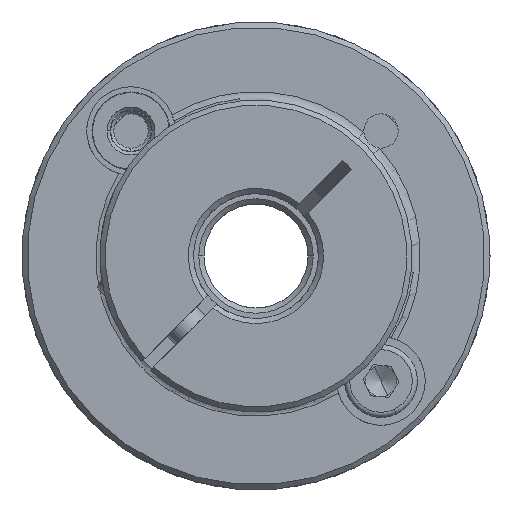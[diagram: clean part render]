
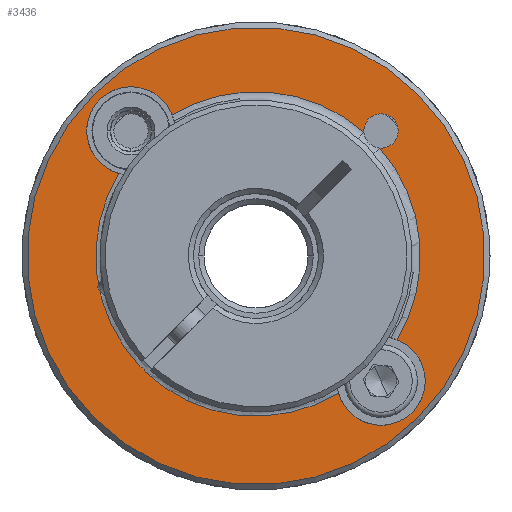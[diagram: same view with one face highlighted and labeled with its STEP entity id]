
A CAD part, front view. The second image highlights one B-rep face of the part: STEP entity #3436.
In plain terms, the highlighted planar face has unit normal (0, -1, 0).
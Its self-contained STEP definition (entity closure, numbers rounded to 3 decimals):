
#66 = CIRCLE ( 'NONE', #1034, 1.65 ) ;
#101 = CARTESIAN_POINT ( 'NONE',  ( 3.11, -12.641, 32.979 ) ) ;
#124 = AXIS2_PLACEMENT_3D ( 'NONE', #5792, #13967, #10471 ) ;
#141 = CIRCLE ( 'NONE', #5827, 1.65 ) ;
#196 = DIRECTION ( 'NONE',  ( 0., 1., 0. ) ) ;
#210 = DIRECTION ( 'NONE',  ( -0.707, 0., 0.707 ) ) ;
#279 = CIRCLE ( 'NONE', #7158, 15.4 ) ;
#394 = EDGE_LOOP ( 'NONE', ( #13311, #7850 ) ) ;
#417 = EDGE_CURVE ( 'NONE', #8270, #8462, #1353, .T. ) ;
#622 = CARTESIAN_POINT ( 'NONE',  ( 6.646, -12.641, 29.444 ) ) ;
#951 = EDGE_CURVE ( 'NONE', #6433, #10979, #13248, .T. ) ;
#1034 = AXIS2_PLACEMENT_3D ( 'NONE', #14615, #8866, #1958 ) ;
#1118 = ORIENTED_EDGE ( 'NONE', *, *, #10856, .T. ) ;
#1133 = CIRCLE ( 'NONE', #4228, 4.25 ) ;
#1189 = VERTEX_POINT ( 'NONE', #4665 ) ;
#1350 = VERTEX_POINT ( 'NONE', #12016 ) ;
#1353 = CIRCLE ( 'NONE', #4260, 15.4 ) ;
#1374 = CARTESIAN_POINT ( 'NONE',  ( -8.911, -12.641, 45. ) ) ;
#1517 = EDGE_CURVE ( 'NONE', #7110, #2505, #3692, .T. ) ;
#1559 = CARTESIAN_POINT ( 'NONE',  ( 3.11, -12.641, 57.021 ) ) ;
#1600 = FACE_BOUND ( 'NONE', #8504, .T. ) ;
#1692 = AXIS2_PLACEMENT_3D ( 'NONE', #10963, #14755, #12432 ) ;
#1958 = DIRECTION ( 'NONE',  ( -0.707, 0., 0.707 ) ) ;
#1959 = CARTESIAN_POINT ( 'NONE',  ( -19.844, -12.641, 34.248 ) ) ;
#2012 = CARTESIAN_POINT ( 'NONE',  ( -19.663, -12.641, 34.067 ) ) ;
#2343 = CARTESIAN_POINT ( 'NONE',  ( -8.911, -12.641, 45. ) ) ;
#2391 = AXIS2_PLACEMENT_3D ( 'NONE', #14695, #3214, #13583 ) ;
#2422 = CARTESIAN_POINT ( 'NONE',  ( 3.11, -12.641, 57.021 ) ) ;
#2505 = VERTEX_POINT ( 'NONE', #7581 ) ;
#2563 = EDGE_CURVE ( 'NONE', #5863, #1350, #66, .T. ) ;
#2640 = CIRCLE ( 'NONE', #4914, 22. ) ;
#2726 = CARTESIAN_POINT ( 'NONE',  ( 1.943, -12.641, 58.188 ) ) ;
#2740 = DIRECTION ( 'NONE',  ( 0., 1., 0. ) ) ;
#2801 = EDGE_CURVE ( 'NONE', #2505, #7725, #1133, .T. ) ;
#2998 = CARTESIAN_POINT ( 'NONE',  ( 6.115, -12.641, 29.974 ) ) ;
#3213 = CARTESIAN_POINT ( 'NONE',  ( -20.932, -12.641, 57.021 ) ) ;
#3214 = DIRECTION ( 'NONE',  ( 0., 1., 0. ) ) ;
#3436 = ADVANCED_FACE ( 'NONE', ( #1600, #7029 ), #10643, .T. ) ;
#3479 = DIRECTION ( 'NONE',  ( 0., 1., 0. ) ) ;
#3692 = CIRCLE ( 'NONE', #2391, 15.8 ) ;
#3741 = DIRECTION ( 'NONE',  ( 0., -1., 0. ) ) ;
#4228 = AXIS2_PLACEMENT_3D ( 'NONE', #5879, #196, #10403 ) ;
#4260 = AXIS2_PLACEMENT_3D ( 'NONE', #13510, #7784, #6718 ) ;
#4261 = EDGE_CURVE ( 'NONE', #1350, #7110, #141, .T. ) ;
#4422 = ORIENTED_EDGE ( 'NONE', *, *, #1517, .T. ) ;
#4665 = CARTESIAN_POINT ( 'NONE',  ( -0.974, -12.641, 31.803 ) ) ;
#4706 = CARTESIAN_POINT ( 'NONE',  ( -8.911, -12.641, 45. ) ) ;
#4784 = DIRECTION ( 'NONE',  ( -0.707, 0., 0.707 ) ) ;
#4894 = ORIENTED_EDGE ( 'NONE', *, *, #13608, .T. ) ;
#4906 = DIRECTION ( 'NONE',  ( -0.707, 0., 0.707 ) ) ;
#4914 = AXIS2_PLACEMENT_3D ( 'NONE', #4706, #12763, #5861 ) ;
#5262 = ORIENTED_EDGE ( 'NONE', *, *, #7408, .T. ) ;
#5379 = CARTESIAN_POINT ( 'NONE',  ( -19.526, -12.641, 33.843 ) ) ;
#5428 = AXIS2_PLACEMENT_3D ( 'NONE', #1374, #3741, #4906 ) ;
#5517 = AXIS2_PLACEMENT_3D ( 'NONE', #3213, #13426, #11106 ) ;
#5792 = CARTESIAN_POINT ( 'NONE',  ( -20.932, -12.641, 57.021 ) ) ;
#5827 = AXIS2_PLACEMENT_3D ( 'NONE', #2422, #12904, #5848 ) ;
#5848 = DIRECTION ( 'NONE',  ( -0.707, 0., 0.707 ) ) ;
#5861 = DIRECTION ( 'NONE',  ( -0.707, 0., 0.707 ) ) ;
#5863 = VERTEX_POINT ( 'NONE', #2726 ) ;
#5879 = CARTESIAN_POINT ( 'NONE',  ( 3.11, -12.641, 32.979 ) ) ;
#5888 = ORIENTED_EDGE ( 'NONE', *, *, #12837, .T. ) ;
#6158 = CARTESIAN_POINT ( 'NONE',  ( -22.108, -12.641, 52.937 ) ) ;
#6306 = CARTESIAN_POINT ( 'NONE',  ( 1.463, -12.641, 56.917 ) ) ;
#6433 = VERTEX_POINT ( 'NONE', #622 ) ;
#6718 = DIRECTION ( 'NONE',  ( -0.707, 0., 0.707 ) ) ;
#6890 = EDGE_CURVE ( 'NONE', #10979, #6433, #2640, .T. ) ;
#6920 = VERTEX_POINT ( 'NONE', #9434 ) ;
#6963 = AXIS2_PLACEMENT_3D ( 'NONE', #101, #10420, #210 ) ;
#6969 = CIRCLE ( 'NONE', #9161, 1.65 ) ;
#7029 = FACE_OUTER_BOUND ( 'NONE', #394, .T. ) ;
#7046 = CARTESIAN_POINT ( 'NONE',  ( -23.937, -12.641, 60.026 ) ) ;
#7110 = VERTEX_POINT ( 'NONE', #11438 ) ;
#7158 = AXIS2_PLACEMENT_3D ( 'NONE', #11745, #13969, #4784 ) ;
#7257 = ORIENTED_EDGE ( 'NONE', *, *, #9635, .T. ) ;
#7299 = EDGE_CURVE ( 'NONE', #1189, #6920, #279, .T. ) ;
#7408 = EDGE_CURVE ( 'NONE', #8664, #5863, #6969, .T. ) ;
#7581 = CARTESIAN_POINT ( 'NONE',  ( 4.674, -12.641, 36.931 ) ) ;
#7674 = CARTESIAN_POINT ( 'NONE',  ( -16.98, -12.641, 58.584 ) ) ;
#7709 = VERTEX_POINT ( 'NONE', #7674 ) ;
#7725 = VERTEX_POINT ( 'NONE', #2998 ) ;
#7784 = DIRECTION ( 'NONE',  ( 0., 1., 0. ) ) ;
#7850 = ORIENTED_EDGE ( 'NONE', *, *, #6890, .T. ) ;
#8110 = CIRCLE ( 'NONE', #124, 4.25 ) ;
#8270 = VERTEX_POINT ( 'NONE', #8711 ) ;
#8462 = VERTEX_POINT ( 'NONE', #6158 ) ;
#8504 = EDGE_LOOP ( 'NONE', ( #11271, #4894, #5888, #13681, #5262, #11331, #14522, #4422, #9726, #1118, #13730, #7257 ) ) ;
#8664 = VERTEX_POINT ( 'NONE', #6306 ) ;
#8711 = CARTESIAN_POINT ( 'NONE',  ( -20.068, -12.641, 34.385 ) ) ;
#8866 = DIRECTION ( 'NONE',  ( 0., 1., 0. ) ) ;
#9018 = CIRCLE ( 'NONE', #13231, 15.8 ) ;
#9161 = AXIS2_PLACEMENT_3D ( 'NONE', #1559, #2740, #9610 ) ;
#9434 = CARTESIAN_POINT ( 'NONE',  ( -19.526, -12.641, 33.843 ) ) ;
#9610 = DIRECTION ( 'NONE',  ( -0.707, 0., 0.707 ) ) ;
#9635 = EDGE_CURVE ( 'NONE', #6920, #8270, #11646, .T. ) ;
#9726 = ORIENTED_EDGE ( 'NONE', *, *, #2801, .T. ) ;
#10015 = CARTESIAN_POINT ( 'NONE',  ( -20.068, -12.641, 34.385 ) ) ;
#10350 = EDGE_CURVE ( 'NONE', #7709, #8664, #9018, .T. ) ;
#10403 = DIRECTION ( 'NONE',  ( -0.707, 0., 0.707 ) ) ;
#10420 = DIRECTION ( 'NONE',  ( 0., 1., 0. ) ) ;
#10471 = DIRECTION ( 'NONE',  ( -0.707, 0., 0.707 ) ) ;
#10643 = PLANE ( 'NONE',  #5428 ) ;
#10856 = EDGE_CURVE ( 'NONE', #7725, #1189, #14076, .T. ) ;
#10963 = CARTESIAN_POINT ( 'NONE',  ( -8.911, -12.641, 45. ) ) ;
#10979 = VERTEX_POINT ( 'NONE', #14027 ) ;
#11106 = DIRECTION ( 'NONE',  ( -0.707, 0., 0.707 ) ) ;
#11271 = ORIENTED_EDGE ( 'NONE', *, *, #417, .T. ) ;
#11331 = ORIENTED_EDGE ( 'NONE', *, *, #2563, .T. ) ;
#11438 = CARTESIAN_POINT ( 'NONE',  ( 3.006, -12.641, 55.374 ) ) ;
#11562 = DIRECTION ( 'NONE',  ( -0.707, 0., 0.707 ) ) ;
#11646 = B_SPLINE_CURVE_WITH_KNOTS ( 'NONE', 3,
 ( #5379, #2012, #1959, #10015 ),
 .UNSPECIFIED., .F., .F.,
 ( 4, 4 ),
 ( 0., 1. ),
 .UNSPECIFIED. ) ;
#11745 = CARTESIAN_POINT ( 'NONE',  ( -8.911, -12.641, 45. ) ) ;
#12016 = CARTESIAN_POINT ( 'NONE',  ( 4.277, -12.641, 55.854 ) ) ;
#12405 = VERTEX_POINT ( 'NONE', #7046 ) ;
#12432 = DIRECTION ( 'NONE',  ( -0.707, 0., 0.707 ) ) ;
#12763 = DIRECTION ( 'NONE',  ( 0., -1., 0. ) ) ;
#12837 = EDGE_CURVE ( 'NONE', #12405, #7709, #8110, .T. ) ;
#12904 = DIRECTION ( 'NONE',  ( 0., 1., 0. ) ) ;
#13231 = AXIS2_PLACEMENT_3D ( 'NONE', #2343, #3479, #11562 ) ;
#13248 = CIRCLE ( 'NONE', #1692, 22. ) ;
#13311 = ORIENTED_EDGE ( 'NONE', *, *, #951, .T. ) ;
#13426 = DIRECTION ( 'NONE',  ( 0., 1., 0. ) ) ;
#13510 = CARTESIAN_POINT ( 'NONE',  ( -8.911, -12.641, 45. ) ) ;
#13583 = DIRECTION ( 'NONE',  ( -0.707, 0., 0.707 ) ) ;
#13608 = EDGE_CURVE ( 'NONE', #8462, #12405, #14037, .T. ) ;
#13681 = ORIENTED_EDGE ( 'NONE', *, *, #10350, .T. ) ;
#13730 = ORIENTED_EDGE ( 'NONE', *, *, #7299, .T. ) ;
#13967 = DIRECTION ( 'NONE',  ( 0., 1., 0. ) ) ;
#13969 = DIRECTION ( 'NONE',  ( 0., 1., 0. ) ) ;
#14027 = CARTESIAN_POINT ( 'NONE',  ( -24.467, -12.641, 60.556 ) ) ;
#14037 = CIRCLE ( 'NONE', #5517, 4.25 ) ;
#14076 = CIRCLE ( 'NONE', #6963, 4.25 ) ;
#14522 = ORIENTED_EDGE ( 'NONE', *, *, #4261, .T. ) ;
#14615 = CARTESIAN_POINT ( 'NONE',  ( 3.11, -12.641, 57.021 ) ) ;
#14695 = CARTESIAN_POINT ( 'NONE',  ( -8.911, -12.641, 45. ) ) ;
#14755 = DIRECTION ( 'NONE',  ( 0., -1., 0. ) ) ;
